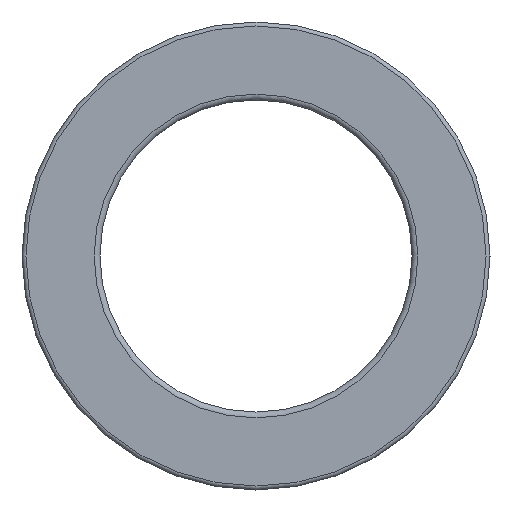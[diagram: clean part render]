
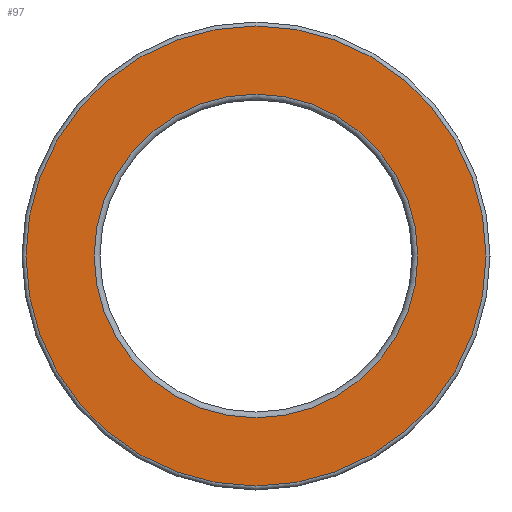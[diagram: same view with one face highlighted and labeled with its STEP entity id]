
A CAD part, left-side view. The second image highlights one B-rep face of the part: STEP entity #97.
In plain terms, the highlighted planar face has unit normal (-1, 0, 0).
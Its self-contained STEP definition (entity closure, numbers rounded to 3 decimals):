
#97=ADVANCED_FACE('',(#166,#167),#168,.F.);
#166=FACE_BOUND('',#238,.T.);
#167=FACE_OUTER_BOUND('',#239,.T.);
#168=PLANE('',#240);
#238=EDGE_LOOP('',(#354));
#239=EDGE_LOOP('',(#355));
#240=AXIS2_PLACEMENT_3D('',#356,#357,#358);
#354=ORIENTED_EDGE('',*,*,#386,.F.);
#355=ORIENTED_EDGE('',*,*,#387,.T.);
#356=CARTESIAN_POINT('',(0.0,22.119,0.0));
#357=DIRECTION('',(1.0,0.0,0.0));
#358=DIRECTION('',(0.0,0.0,-1.0));
#386=EDGE_CURVE('',#432,#432,#433,.T.);
#387=EDGE_CURVE('',#434,#434,#435,.T.);
#432=VERTEX_POINT('',#480);
#433=CIRCLE('',#481,15.558);
#434=VERTEX_POINT('',#482);
#435=CIRCLE('',#483,22.119);
#480=CARTESIAN_POINT('',(0.0,0.0,15.558));
#481=AXIS2_PLACEMENT_3D('',#550,#551,#552);
#482=CARTESIAN_POINT('',(0.0,0.0,22.119));
#483=AXIS2_PLACEMENT_3D('',#553,#554,#555);
#550=CARTESIAN_POINT('',(0.0,0.0,0.0));
#551=DIRECTION('',(-1.0,0.0,0.0));
#552=DIRECTION('',(0.0,0.0,1.0));
#553=CARTESIAN_POINT('',(0.0,0.0,0.0));
#554=DIRECTION('',(-1.0,0.0,0.0));
#555=DIRECTION('',(0.0,0.0,1.0));
